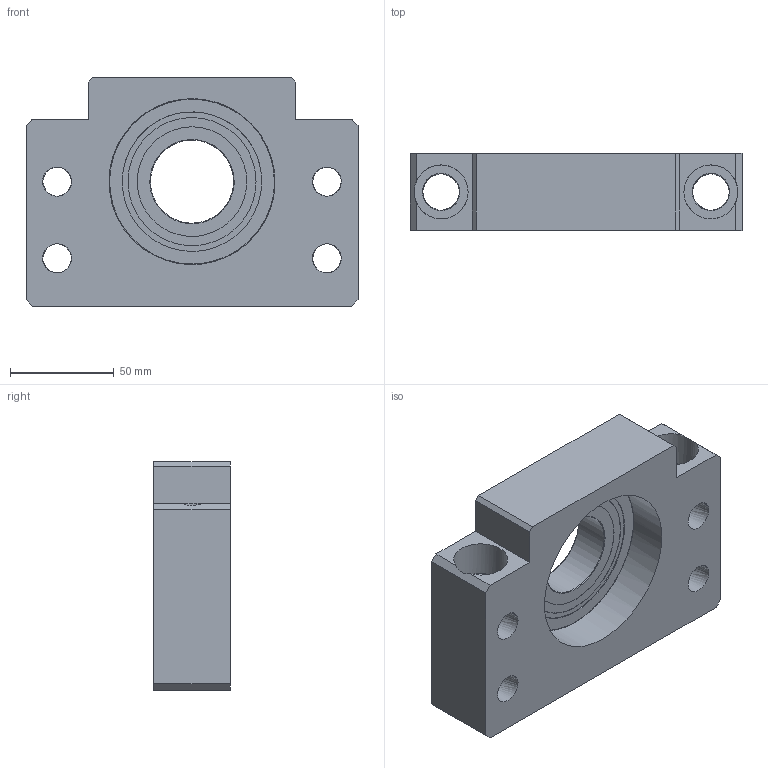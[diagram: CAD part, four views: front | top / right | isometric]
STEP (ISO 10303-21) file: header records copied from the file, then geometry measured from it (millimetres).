
FILE_DESCRIPTION( ('This file contains a STEP AP42 implementation' ,'as created by ZW3D STEP Interface translator.') ,'2;1' );
FILE_NAME( '58D2B9A8-DE00-F002-F9ED-AD6048B36CAC.stp' ,'18 315.172559', (''), ('ZWCAD Software Co.'), 'Version 1.0', 'ZW3D to STEP translator', '' );
FILE_SCHEMA( ('CONFIG_CONTROL_DESIGN') );
Length unit declared in the file: millimetre
Products named in the file (4): 0; NSFBF-40; _BF 40 Part2; _BF 40 Part1
Assembly tree (2 placements, depth 2):
  0
  NSFBF-40
    _BF 40 Part2
    _BF 40 Part1
Bounding box: 160 x 37 x 110 mm (x, y, z)
Volume: 419039.2 mm3; surface area: 77551.5 mm2
Topology: 2 solids, 2 shells, 51 faces, 132 edges, 87 vertices
Faces by surface type: bspline 51
Entity records: 2471 total; most frequent: CARTESIAN_POINT 1525, ORIENTED_EDGE 264, EDGE_CURVE 132, VERTEX_POINT 87, B_SPLINE_CURVE_WITH_KNOTS 85, EDGE_LOOP 77, FACE_OUTER_BOUND 51, ADVANCED_FACE 51
